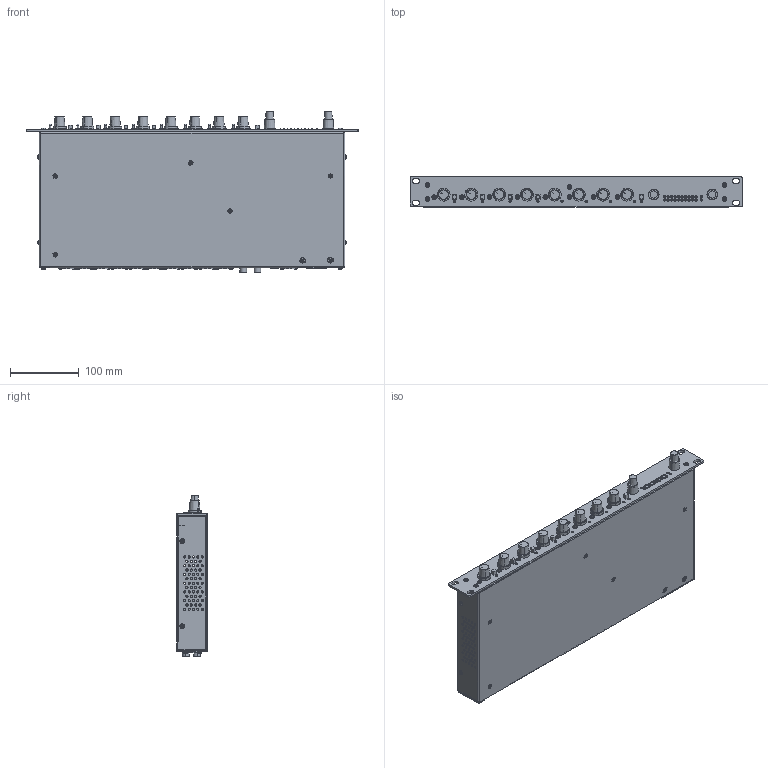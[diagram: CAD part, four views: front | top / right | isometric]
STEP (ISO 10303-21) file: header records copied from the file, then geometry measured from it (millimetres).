
FILE_DESCRIPTION (( 'STEP AP214' ), '1' );
FILE_NAME ('31128-exterior.STEP', '2018-05-17T13:05:19', ( '' ), ( '' ), 'SwSTEP 2.0', 'SolidWorks 2018', '' );
FILE_SCHEMA (( 'AUTOMOTIVE_DESIGN' ));
Length unit declared in the file: millimetre
Products named in the file (1): 31128-exterior
Bounding box: 482.6 x 43.69 x 234.23 mm (x, y, z)
Surface area: 619653.6 mm2 (no closed solid volume)
Topology: 0 solids, 194 shells, 1630 faces, 7141 edges, 5528 vertices
Faces by surface type: cylinder 613, plane 421, cone 243, torus 188, sphere 150, bspline 15
Entity records: 95156 total; most frequent: CARTESIAN_POINT 17882, DIRECTION 13416, ORIENTED_EDGE 10050, EDGE_CURVE 6997, AXIS2_PLACEMENT_3D 5603, VERTEX_POINT 5457, CIRCLE 3987, EDGE_LOOP 2606
